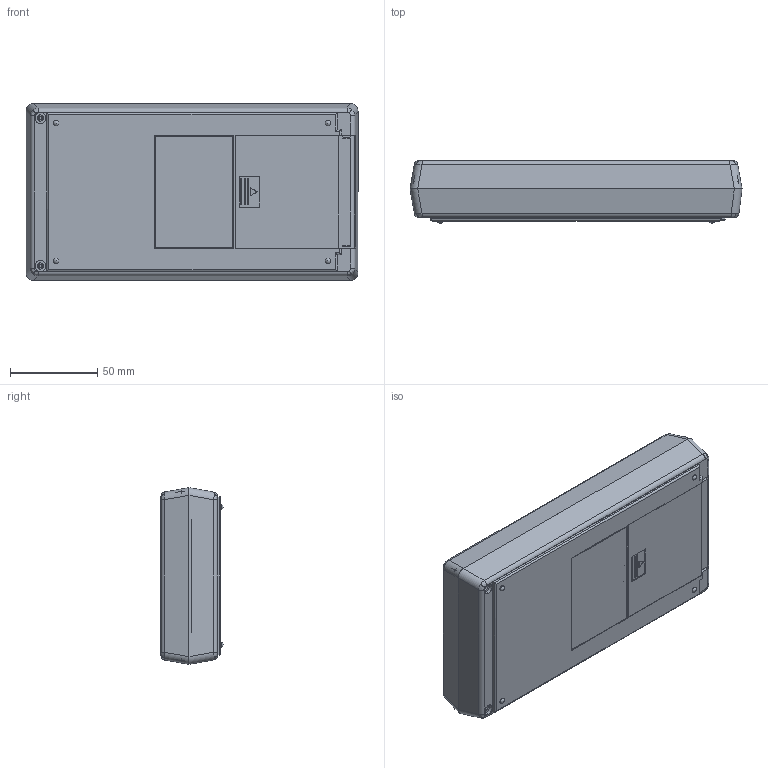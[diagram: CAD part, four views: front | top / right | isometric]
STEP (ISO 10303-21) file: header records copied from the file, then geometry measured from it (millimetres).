
FILE_DESCRIPTION (( 'STEP AP214' ), '1' );
FILE_NAME ('101-42-29V-R.STEP', '2019-12-01T01:06:47', ( 'Rudy' ), ( '' ), 'SwSTEP 2.0', 'SolidWorks 2014', '' );
FILE_SCHEMA (( 'AUTOMOTIVE_DESIGN' ));
Length unit declared in the file: millimetre
Products named in the file (4): 29V door; 100-04-LCD Top; 100-02 BOT-29V; 101-42-29V-R
Assembly tree (3 placements, depth 2):
  101-42-29V-R
    100-02 BOT-29V
    100-04-LCD Top
    29V door
Bounding box: 190.6 x 35.66 x 101.4 mm (x, y, z)
Volume: 110552.9 mm3; surface area: 128845 mm2
Topology: 3 solids, 3 shells, 667 faces, 1794 edges, 1126 vertices
Faces by surface type: plane 376, cylinder 203, bspline 42, cone 30, torus 12, sphere 4
Entity records: 22159 total; most frequent: CARTESIAN_POINT 5815, ORIENTED_EDGE 3512, DIRECTION 3111, EDGE_CURVE 1756, LINE 1187, VECTOR 1187, VERTEX_POINT 1118, AXIS2_PLACEMENT_3D 962
